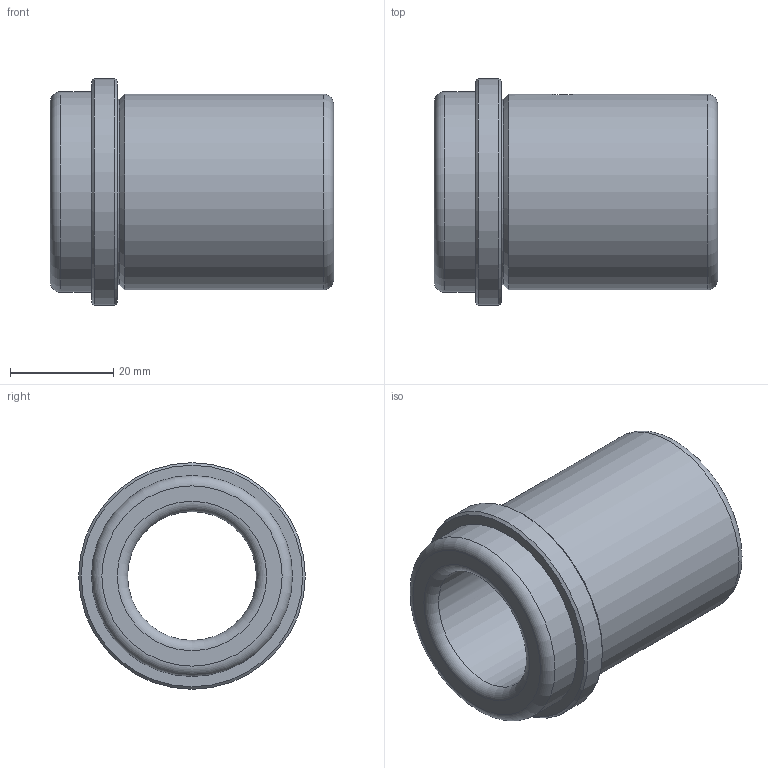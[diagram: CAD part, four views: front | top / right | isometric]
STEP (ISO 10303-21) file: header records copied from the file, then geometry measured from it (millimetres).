
FILE_DESCRIPTION( ( 'STEP AP214' ), '1' );
FILE_NAME( 'p:/temp/worker_1047/temp/exporttempdir_5452_362_MFItZ/format_2/WZ - 4032 25 x 55.stp', '2020-12-03T19:41:48', ( 'License CC BY-ND 4.0' ), ( 'CADENAS' ), ' ', 'PARTsolutions', ' ' );
FILE_SCHEMA( ( 'AUTOMOTIVE_DESIGN { 1 0 10303 214 1 1 1 1 }' ) );
Length unit declared in the file: millimetre
Products named in the file (1): _WZ - 4032 25 x 55
Bounding box: 55 x 44 x 44 mm (x, y, z)
Volume: 36954.3 mm3; surface area: 13027.1 mm2
Topology: 1 solids, 1 shells, 19 faces, 34 edges, 20 vertices
Faces by surface type: cylinder 6, plane 5, torus 4, cone 4
Full cylindrical faces by diameter (mm): 5 x1, 25 x1, 36 x1, 38 x1, 39 x1, 44 x1
Entity records: 682 total; most frequent: CARTESIAN_POINT 178, DIRECTION 76, EDGE_LOOP 40, ORIENTED_EDGE 40, AXIS2_PLACEMENT_3D 38, FACE_OUTER_BOUND 29, EDGE_CURVE 20, VERTEX_POINT 20
